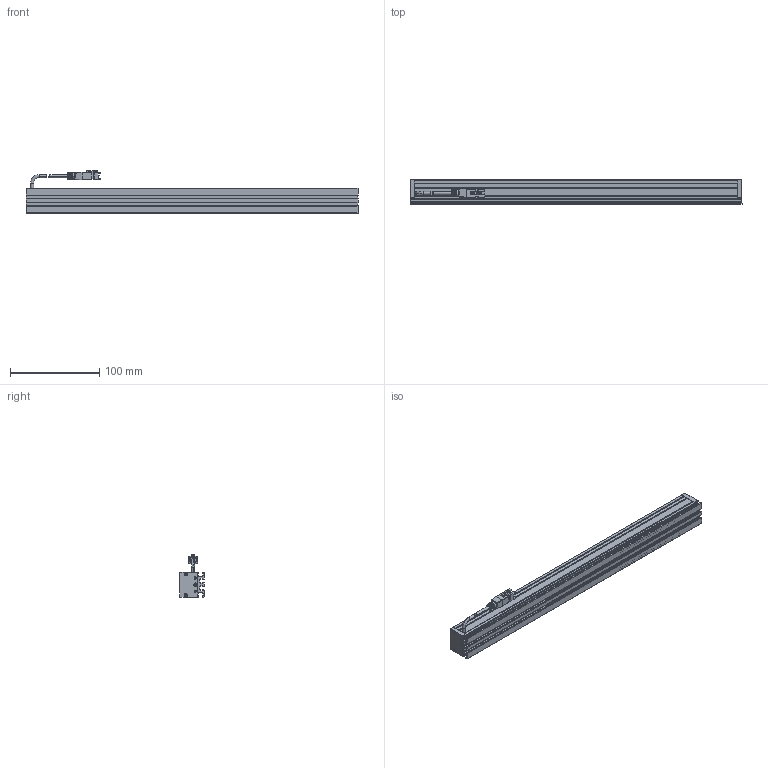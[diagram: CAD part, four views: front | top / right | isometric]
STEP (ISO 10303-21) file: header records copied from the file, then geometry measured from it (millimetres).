
FILE_DESCRIPTION (( 'STEP AP203' ), '1' );
FILE_NAME ('CK-BL37228.STEP', '2026-01-02T03:25:44', ( '' ), ( '' ), 'SwSTEP 2.0', 'SolidWorks 2022', '' );
FILE_SCHEMA (( 'CONFIG_CONTROL_DESIGN' ));
Length unit declared in the file: millimetre
Products named in the file (6): 十字沉头螺丝 M2x10; CK-BL37228; CK-BL37228-001A; 光源线-01; CK-BL37228-002A; CK-BL37228-003A
Assembly tree (11 placements, depth 2):
  CK-BL37228
    CK-BL37228-001A
    CK-BL37228-002A  x2
    CK-BL37228-003A
    光源线-01
    十字沉头螺丝 M2x10  x6
Bounding box: 372 x 27 x 47.34 mm (x, y, z)
Volume: 122694.1 mm3; surface area: 107579.4 mm2
Topology: 13 solids, 13 shells, 575 faces, 1494 edges, 950 vertices
Faces by surface type: plane 337, cylinder 172, cone 46, bspline 20
Entity records: 13997 total; most frequent: CARTESIAN_POINT 2782, ORIENTED_EDGE 2202, DIRECTION 2163, EDGE_CURVE 1101, VECTOR 781, LINE 781, VERTEX_POINT 714, AXIS2_PLACEMENT_3D 691
